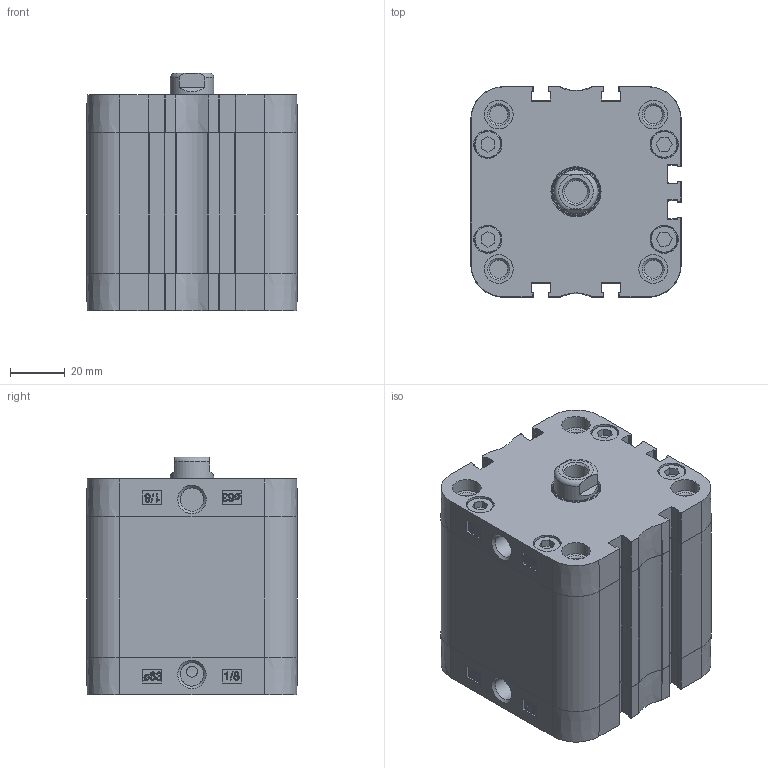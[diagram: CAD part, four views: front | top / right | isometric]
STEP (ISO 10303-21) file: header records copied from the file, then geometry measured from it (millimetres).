
FILE_DESCRIPTION(/* description */ ('Unknown'),/* implementation_level */ '2;1');
FILE_NAME(/* name */ 'ZIN 63_30',/* time_stamp */ '2024-11-12T08:09:50+01:00',/* author */ ('Unknown'),/* organization */ ('HAFNER Pneumatika Kft.'),/* preprocessor_version */ 'ST-DEVELOPER v18.102',/* originating_system */ 'Solid Edge',/* authorisation */ 'Unknown');
FILE_SCHEMA (('AUTOMOTIVE_DESIGN {1 0 10303 214 3 1 1}'));
Length unit declared in the file: millimetre
Products named in the file (5): ZIN 63_30; Kit_1; Kit_2; Kolbenstange; Profilrohr
Assembly tree (4 placements, depth 2):
  ZIN 63_30
    Kit_1
    Kit_2
    Kolbenstange
    Profilrohr
Bounding box: 77 x 77 x 87 mm (x, y, z)
Volume: 343245.7 mm3; surface area: 86959.4 mm2
Topology: 4 solids, 4 shells, 734 faces, 1963 edges, 1304 vertices
Faces by surface type: plane 346, cylinder 213, bspline 124, cone 32, torus 19
Full cylindrical faces by diameter (mm): 4 x1, 6.647 x8, 8.36 x1, 8.376 x2, 8.566 x2, 9.8 x8, 10.3 x8, 10.5 x8, 12 x1, 16 x1, 16.54 x1, 17.7 x1, 18 x1, 20.5 x1, 63 x2
Entity records: 27729 total; most frequent: CARTESIAN_POINT 5830, ORIENTED_EDGE 3708, DIRECTION 3288, EDGE_CURVE 1854, VERTEX_POINT 1282, AXIS2_PLACEMENT_3D 1100, LINE 1088, VECTOR 1088
